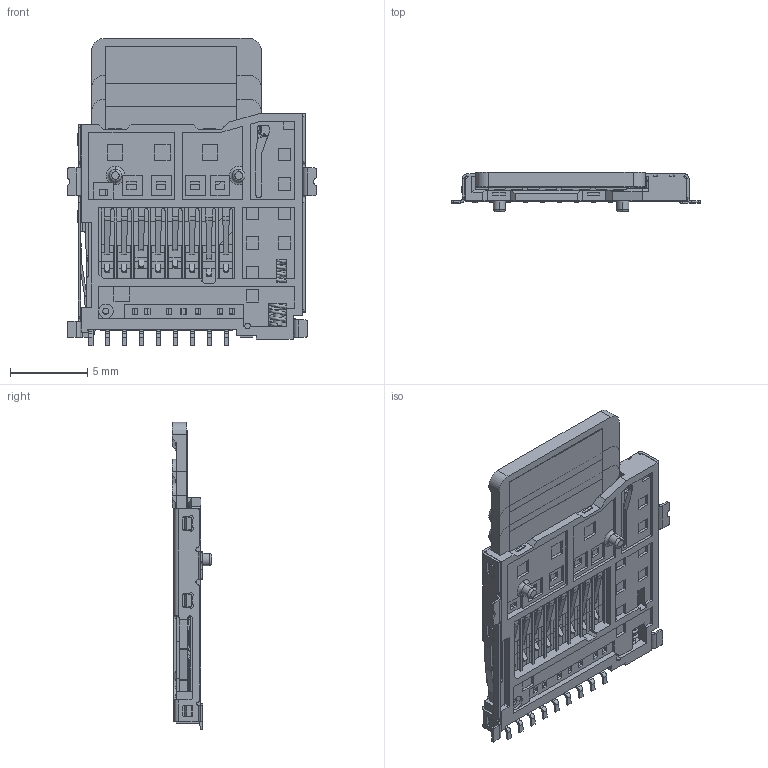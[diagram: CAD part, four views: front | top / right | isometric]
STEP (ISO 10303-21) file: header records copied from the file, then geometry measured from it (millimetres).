
FILE_DESCRIPTION((''),'2;1');
FILE_NAME('1314_ASM','2024-03-29T16:57:51',('Administrator'),(''),'CREO PARAMETRIC BY PTC INC, 2022073','CREO PARAMETRIC BY PTC INC, 2022073','');
FILE_SCHEMA(('AP242_MANAGED_MODEL_BASED_3D_ENGINEERING_MIM_LF { 1 0 10303 442 1 1 4 }'));
Products named in the file (12): 1111_1_1; 1111_1_2; 1111_1_3; 1111_1_4; 1111_1_5; 1111_1_6; 1111_1_ASM; TF-CARD_1_1; TF-CARD_1_ASM; TF-CARD_1; PRT0005; 1314_ASM
Assembly tree (11 placements, depth 3):
  1314_ASM
    1111_1_ASM
      1111_1_1
      1111_1_2
      1111_1_3
      1111_1_4
      1111_1_5
      1111_1_6
    TF-CARD_1_ASM
      TF-CARD_1_1
    TF-CARD_1
    PRT0005
Bounding box: 16.16 x 2.55 x 19.93 mm (x, y, z)
Volume: 350.2 mm3; surface area: 2144.9 mm2
Topology: 9 solids, 11 shells, 1734 faces, 5348 edges, 3692 vertices
Faces by surface type: plane 1281, cylinder 372, bspline 30, cone 26, torus 25
Entity records: 102262 total; most frequent: CARTESIAN_POINT 51686, ORIENTED_EDGE 10580, DIRECTION 9385, EDGE_CURVE 5292, VECTOR 4001, LINE 4001, VERTEX_POINT 3636, AXIS2_PLACEMENT_3D 2692
